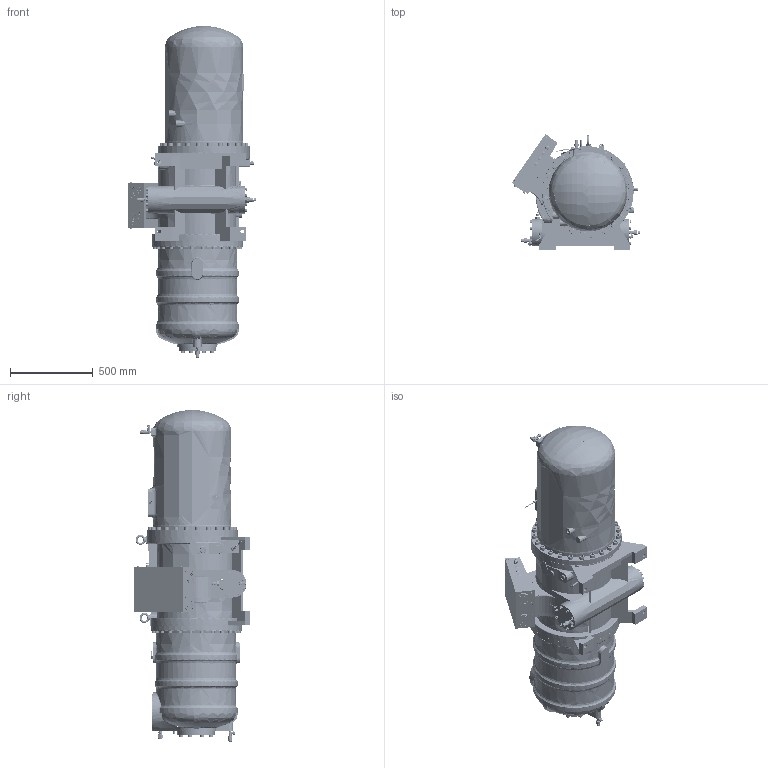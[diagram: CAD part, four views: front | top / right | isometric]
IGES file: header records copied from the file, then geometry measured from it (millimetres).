
Global section: file name: RC2-790B outline; native system: Autodesk Inventor 2017; preprocessor: unknown; author: hedylu; date: 20170628.111110; units: centimetre
Bounding box: 776.94 x 700.22 x 2003.49 mm (x, y, z)
Surface area: 6380612.2 mm2 (no closed solid volume)
Topology: 0 solids, 0 shells, 3034 faces, 34344 edges, 34330 vertices
Faces by surface type: bspline 1596, revolution 1438
